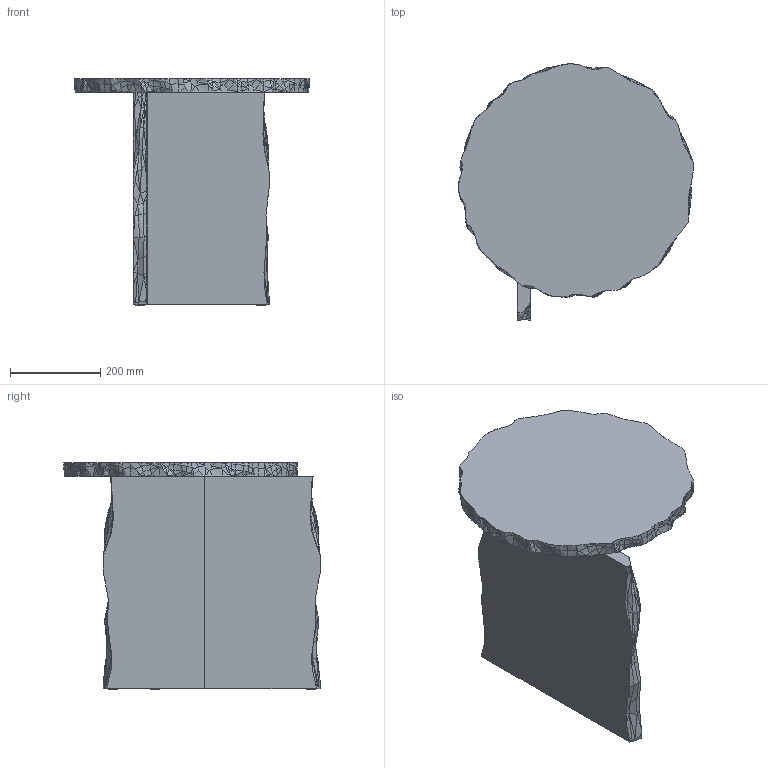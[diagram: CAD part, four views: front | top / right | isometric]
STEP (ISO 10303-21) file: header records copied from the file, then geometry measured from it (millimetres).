
FILE_DESCRIPTION(/* description */ (''),/* implementation_level */ '2;1');
FILE_NAME(/* name */ 'Mineral Sculptural Table_Ferm living_3D',/* time_stamp */ '2021-09-02T13:00:45+02:00',/* author */ (''),/* organization */ (''),/* preprocessor_version */ 'ST-DEVELOPER v16.5',/* originating_system */ '',/* authorisation */ '');
FILE_SCHEMA (('CONFIG_CONTROL_DESIGN'));
Length unit declared in the file: millimetre
Products named in the file (1): Document
Bounding box: 522.01 x 567.27 x 502 mm (x, y, z)
Volume: 16345646.8 mm3; surface area: 1245977.7 mm2
Topology: 8 solids, 8 shells, 818 faces, 1882 edges, 1080 vertices
Faces by surface type: bspline 450, plane 360, cylinder 8
Entity records: 21405 total; most frequent: CARTESIAN_POINT 8707, ORIENTED_EDGE 3764, EDGE_CURVE 1882, B_SPLINE_CURVE_WITH_KNOTS 1858, VERTEX_POINT 1080, ADVANCED_FACE 818, FACE_OUTER_BOUND 818, EDGE_LOOP 818
